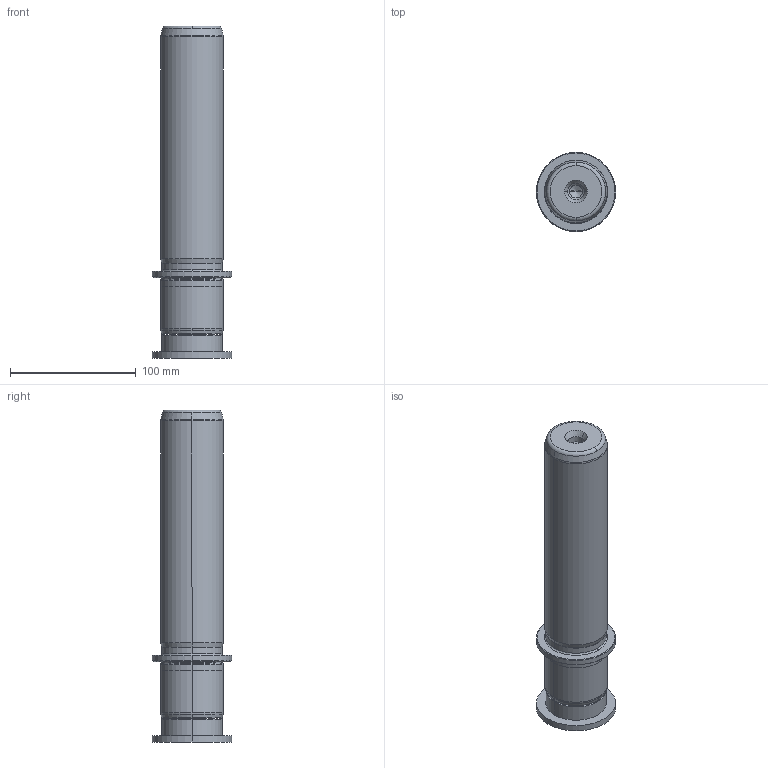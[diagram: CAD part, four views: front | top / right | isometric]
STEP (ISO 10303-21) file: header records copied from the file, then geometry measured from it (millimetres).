
FILE_DESCRIPTION((''),'2;1');
FILE_NAME('P22_050_200.stp','2009-11-02T10:48:32',(''),(''),'Mechanical Desktop 2009','Mechanical Desktop 2009',', , ');
FILE_SCHEMA(('CONFIG_CONTROL_DESIGN'));
Length unit declared in the file: millimetre
Products named in the file (2): Product; blmdl1
Assembly tree (1 placements, depth 2):
  Product
    blmdl1
Bounding box: 63 x 63 x 264 mm (x, y, z)
Volume: 516462.7 mm3; surface area: 59132.5 mm2
Topology: 3 solids, 3 shells, 99 faces, 237 edges, 149 vertices
Faces by surface type: cylinder 32, cone 28, plane 19, torus 10, bspline 10
Entity records: 3419 total; most frequent: CARTESIAN_POINT 923, DIRECTION 570, ORIENTED_EDGE 466, AXIS2_PLACEMENT_3D 246, EDGE_CURVE 233, CIRCLE 155, VERTEX_POINT 149, EDGE_LOOP 110
